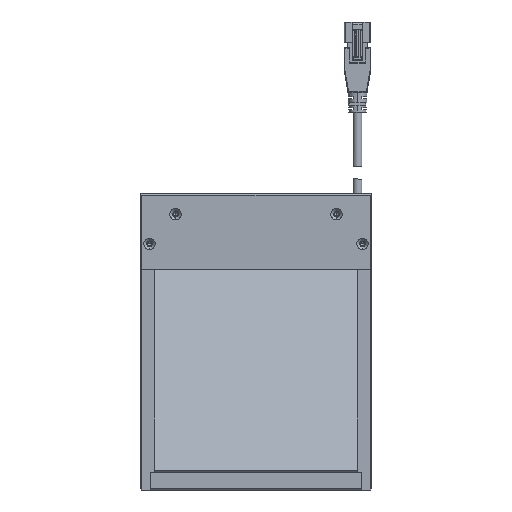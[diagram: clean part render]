
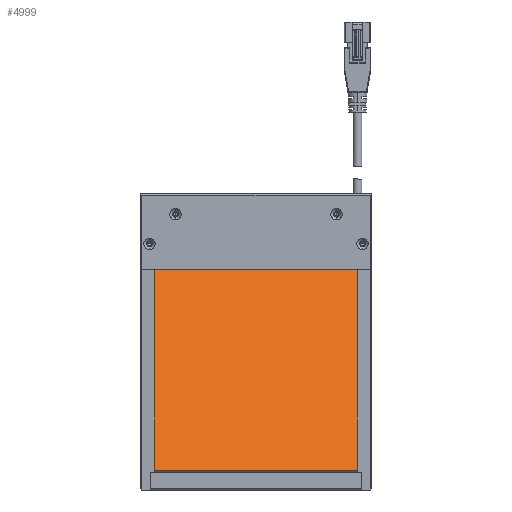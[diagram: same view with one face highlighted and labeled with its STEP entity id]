
A CAD part, front view. The second image highlights one B-rep face of the part: STEP entity #4999.
In plain terms, the highlighted planar face has unit normal (0, -0.707, 0.707).
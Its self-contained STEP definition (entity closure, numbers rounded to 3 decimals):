
#186 = EDGE_CURVE ( 'NONE', #14290, #16768, #11106, .T. ) ;
#1407 = LINE ( 'NONE', #1628, #3145 ) ;
#1440 = CARTESIAN_POINT ( 'NONE',  ( -31., 40.409, -22.539 ) ) ;
#1628 = CARTESIAN_POINT ( 'NONE',  ( -31., 119.959, 57.01 ) ) ;
#1650 = CARTESIAN_POINT ( 'NONE',  ( -31., 119.959, 57.01 ) ) ;
#2080 = VECTOR ( 'NONE', #14212, 1000. ) ;
#2969 = EDGE_CURVE ( 'NONE', #3648, #3297, #3853, .T. ) ;
#3145 = VECTOR ( 'NONE', #14700, 1000. ) ;
#3297 = VERTEX_POINT ( 'NONE', #11919 ) ;
#3648 = VERTEX_POINT ( 'NONE', #20945 ) ;
#3853 = LINE ( 'NONE', #1440, #2080 ) ;
#4468 = ORIENTED_EDGE ( 'NONE', *, *, #186, .T. ) ;
#4999 = ADVANCED_FACE ( 'NONE', ( #18696 ), #12021, .T. ) ;
#5991 = ORIENTED_EDGE ( 'NONE', *, *, #18513, .T. ) ;
#6596 = VECTOR ( 'NONE', #13229, 1000. ) ;
#7323 = CARTESIAN_POINT ( 'NONE',  ( 10.6, 80.184, 17.235 ) ) ;
#7461 = CARTESIAN_POINT ( 'NONE',  ( -31., 119.959, 57.01 ) ) ;
#8466 = EDGE_LOOP ( 'NONE', ( #5991, #4468, #12898, #8566 ) ) ;
#8566 = ORIENTED_EDGE ( 'NONE', *, *, #2969, .T. ) ;
#8742 = DIRECTION ( 'NONE',  ( 0., -0.707, 0.707 ) ) ;
#10689 = LINE ( 'NONE', #13166, #6596 ) ;
#11106 = LINE ( 'NONE', #7461, #20795 ) ;
#11141 = EDGE_CURVE ( 'NONE', #16768, #3648, #1407, .T. ) ;
#11919 = CARTESIAN_POINT ( 'NONE',  ( 52.2, 40.409, -22.539 ) ) ;
#12021 = PLANE ( 'NONE',  #19905 ) ;
#12898 = ORIENTED_EDGE ( 'NONE', *, *, #11141, .T. ) ;
#13166 = CARTESIAN_POINT ( 'NONE',  ( 52.2, 119.959, 57.01 ) ) ;
#13229 = DIRECTION ( 'NONE',  ( 0., 0.707, 0.707 ) ) ;
#13869 = DIRECTION ( 'NONE',  ( 1., 0., 0. ) ) ;
#14212 = DIRECTION ( 'NONE',  ( 1., 0., 0. ) ) ;
#14290 = VERTEX_POINT ( 'NONE', #17160 ) ;
#14700 = DIRECTION ( 'NONE',  ( 0., -0.707, -0.707 ) ) ;
#16768 = VERTEX_POINT ( 'NONE', #1650 ) ;
#17160 = CARTESIAN_POINT ( 'NONE',  ( 52.2, 119.959, 57.01 ) ) ;
#18282 = DIRECTION ( 'NONE',  ( -1., 0., 0. ) ) ;
#18513 = EDGE_CURVE ( 'NONE', #3297, #14290, #10689, .T. ) ;
#18696 = FACE_OUTER_BOUND ( 'NONE', #8466, .T. ) ;
#19905 = AXIS2_PLACEMENT_3D ( 'NONE', #7323, #8742, #13869 ) ;
#20795 = VECTOR ( 'NONE', #18282, 1000. ) ;
#20945 = CARTESIAN_POINT ( 'NONE',  ( -31., 40.409, -22.539 ) ) ;
